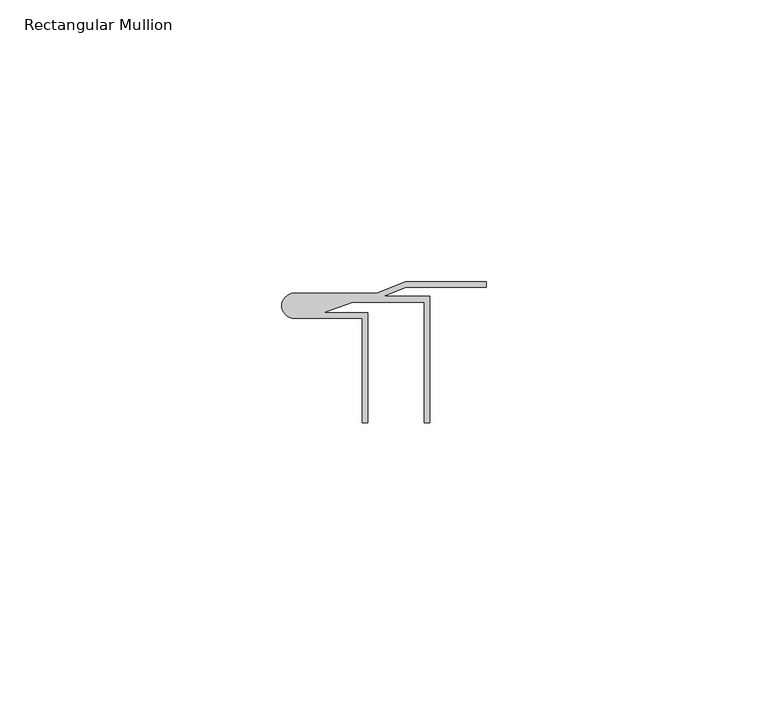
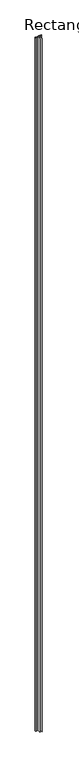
"""IFC4 building model written with IfcOpenShell, lengths in millimetres: member geometry, Rectangular Mullion : Stratco_Hiland_Interlock_Concealed Fix 10mm Gap_Intermediate."""

from ifc_helpers import new_model, si_unit, point, frame, frame_2d, origin, place, context, project, spatial, polyline, circle_curve, trimmed, segment, composite_curve, outline, extrude, source, transform, mapped, element, save


def rectangular_mullion_f2440827(model_context):
    return source(origin(), model_context, "Body", "SweptSolid", [
        extrude(outline(composite_curve([segment(polyline([(0.0, -3.6), (-12.6381457, -3.6), (-17.8583528, -5.5), (-10.0, -5.5), (-10.0, -25.0), (-11.0, -25.0), (-11.0, -6.5), (-23.0, -6.5)]), True, "CONTINUOUS"), segment(trimmed(circle_curve(frame_2d((-23.0, -4.25)), 2.25), [point((-23.0, -6.5))], [point((-23.0, -2.0))], False, "CARTESIAN"), True, "CONTINUOUS"), segment(polyline([(-23.0, -2.0), (-8.3843316, -2.0), (-3.3601427, 0.0), (11.0, 0.0), (11.0, -1.0), (-3.1684216, -1.0), (-7.1877727, -2.6), (1.0, -2.6), (1.0, -25.0), (0.0, -25.0), (0.0, -3.6)]), True, "CONTINUOUS")], self_intersect=False)), frame((0.0, 0.0, -4000.0), z_axis=(0.0, 0.0, 1.0), x_axis=(1.0, 0.0, 0.0)), (0.0, 0.0, 1.0), 4000.0),
    ])


if __name__ == "__main__":
    model = new_model("IFC4")
    model_context = context("Model", 3, world=origin())
    ifc_project = project(units=[si_unit("LENGTHUNIT", "METRE", prefix="MILLI")], contexts=[model_context])
    site = spatial("IfcSite", under=ifc_project)
    building = spatial("IfcBuilding", under=site)
    placement = place(None, origin())
    rectangular_mullion_shape = rectangular_mullion_f2440827(model_context)
    element("IfcMember", 1, ObjectType="Rectangular Mullion : Stratco_Hiland_Interlock_Concealed Fix 10mm Gap_Intermediate", at=placement, inside=building, context=model_context, shape_type="MappedRepresentation", body=[
        mapped(rectangular_mullion_shape, transform((0.0, 0.0, 0.0), x_axis=(1.0, 0.0, 0.0), y_axis=(0.0, 1.0, 0.0), z_axis=(0.0, 0.0, 1.0))),
    ])
    save(model, "model.ifc")
